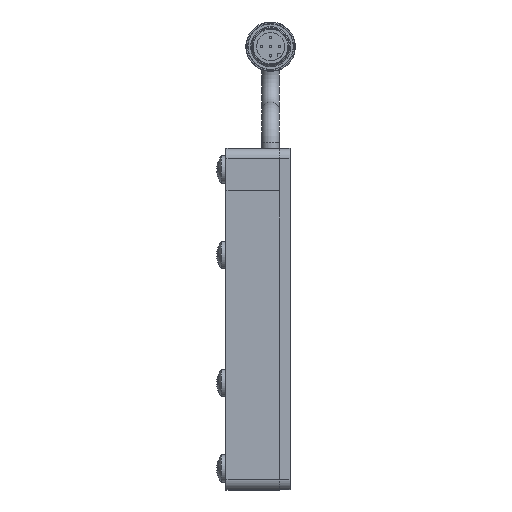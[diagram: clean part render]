
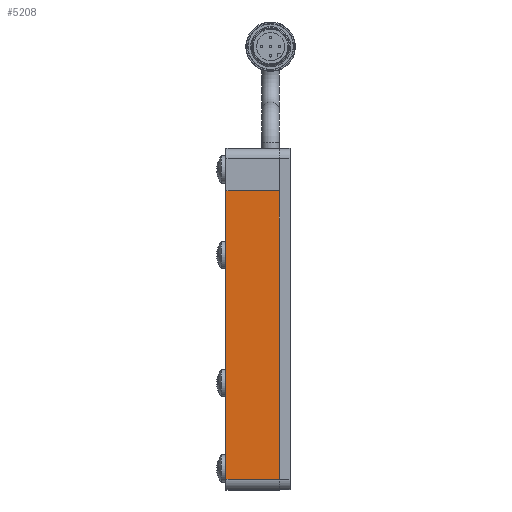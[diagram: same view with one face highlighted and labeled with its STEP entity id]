
A CAD part, left-side view. The second image highlights one B-rep face of the part: STEP entity #5208.
In plain terms, the highlighted planar face has unit normal (-1, 0, 0) as drawn and (0, 0, -1) by its records, which use the part's own axes.
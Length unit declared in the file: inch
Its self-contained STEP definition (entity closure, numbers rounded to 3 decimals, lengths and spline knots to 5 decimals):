
#979 = ORIENTED_EDGE ( 'NONE', *, *, #17812, .T. ) ;
#1867 = CARTESIAN_POINT ( 'NONE',  ( 1.875, 0.3125, -0.25 ) ) ;
#2109 = CARTESIAN_POINT ( 'NONE',  ( -2., 0.3125, -0.25 ) ) ;
#2719 = LINE ( 'NONE', #16922, #14584 ) ;
#4340 = EDGE_CURVE ( 'NONE', #18756, #5620, #12297, .T. ) ;
#4383 = LINE ( 'NONE', #10184, #5354 ) ;
#4613 = CARTESIAN_POINT ( 'NONE',  ( 1.875, -0.3125, -0.25 ) ) ;
#4712 = DIRECTION ( 'NONE',  ( -1., 0., 0. ) ) ;
#5078 = CARTESIAN_POINT ( 'NONE',  ( -2., -0.3125, -0.25 ) ) ;
#5208 = ADVANCED_FACE ( 'NONE', ( #12172 ), #10761, .F. ) ;
#5354 = VECTOR ( 'NONE', #10823, 39.37008 ) ;
#5620 = VERTEX_POINT ( 'NONE', #17030 ) ;
#6076 = ORIENTED_EDGE ( 'NONE', *, *, #11972, .F. ) ;
#6319 = AXIS2_PLACEMENT_3D ( 'NONE', #12001, #12373, #10668 ) ;
#8545 = ORIENTED_EDGE ( 'NONE', *, *, #14871, .T. ) ;
#10184 = CARTESIAN_POINT ( 'NONE',  ( 1.875, 0.3125, -0.25 ) ) ;
#10668 = DIRECTION ( 'NONE',  ( 1., 0., 0. ) ) ;
#10761 = PLANE ( 'NONE',  #6319 ) ;
#10823 = DIRECTION ( 'NONE',  ( 0., -1., 0. ) ) ;
#11699 = VECTOR ( 'NONE', #4712, 39.37008 ) ;
#11972 = EDGE_CURVE ( 'NONE', #14900, #14635, #13743, .T. ) ;
#12001 = CARTESIAN_POINT ( 'NONE',  ( -2., 0.3125, -0.25 ) ) ;
#12172 = FACE_OUTER_BOUND ( 'NONE', #15668, .T. ) ;
#12189 = DIRECTION ( 'NONE',  ( -1., 0., 0. ) ) ;
#12297 = LINE ( 'NONE', #5078, #11699 ) ;
#12373 = DIRECTION ( 'NONE',  ( 0., 0., 1. ) ) ;
#13743 = LINE ( 'NONE', #2109, #18726 ) ;
#14584 = VECTOR ( 'NONE', #18622, 39.37008 ) ;
#14635 = VERTEX_POINT ( 'NONE', #18178 ) ;
#14871 = EDGE_CURVE ( 'NONE', #14900, #18756, #4383, .T. ) ;
#14900 = VERTEX_POINT ( 'NONE', #1867 ) ;
#15668 = EDGE_LOOP ( 'NONE', ( #6076, #8545, #17317, #979 ) ) ;
#16922 = CARTESIAN_POINT ( 'NONE',  ( -1.5, -0.3125, -0.25 ) ) ;
#17030 = CARTESIAN_POINT ( 'NONE',  ( -1.5, -0.3125, -0.25 ) ) ;
#17317 = ORIENTED_EDGE ( 'NONE', *, *, #4340, .T. ) ;
#17812 = EDGE_CURVE ( 'NONE', #5620, #14635, #2719, .T. ) ;
#18178 = CARTESIAN_POINT ( 'NONE',  ( -1.5, 0.3125, -0.25 ) ) ;
#18622 = DIRECTION ( 'NONE',  ( 0., 1., 0. ) ) ;
#18726 = VECTOR ( 'NONE', #12189, 39.37008 ) ;
#18756 = VERTEX_POINT ( 'NONE', #4613 ) ;
